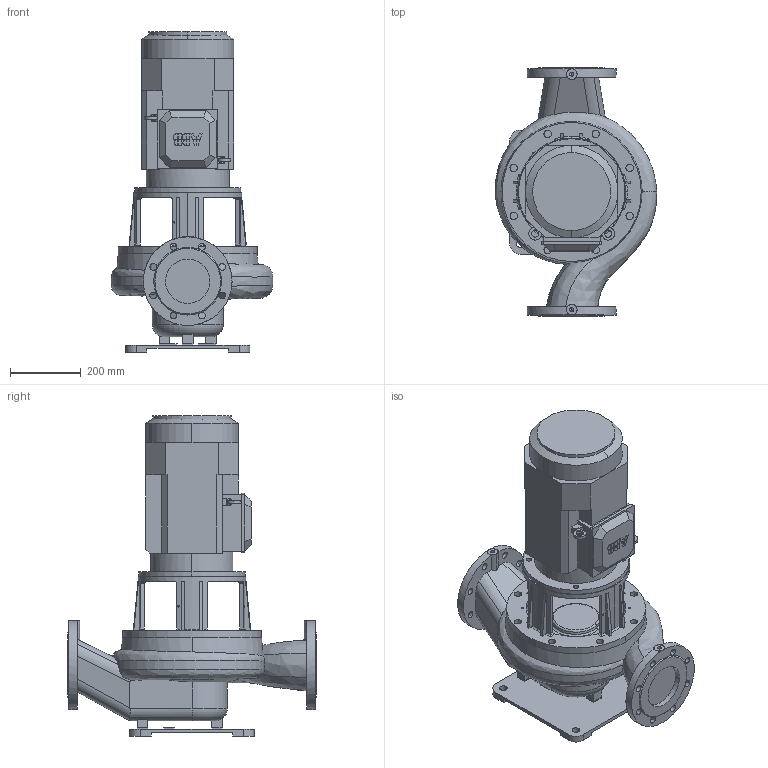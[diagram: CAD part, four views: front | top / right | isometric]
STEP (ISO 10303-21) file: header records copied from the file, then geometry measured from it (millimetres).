
FILE_DESCRIPTION(('STEP AP214'),'1');
FILE_NAME('export.stp','2018-05-29T13:20:18',(' '),(' '),'Spatial InterOp 3D',' ',' ');
FILE_SCHEMA(('AUTOMOTIVE_DESIGN { 1 0 10303 214 1 1 1 1 }'));
Length unit declared in the file: millimetre
Products named in the file (6): W_AL11294SD750; V_TL110611291154; V_PPAL1129; V_JALKA30940; P100906; IEC-132
Assembly tree (5 placements, depth 2):
  W_AL11294SD750
    V_TL110611291154
    V_PPAL1129
    V_JALKA30940
    P100906
    IEC-132
Bounding box: 455.8 x 700 x 903 mm (x, y, z)
Volume: 55160118 mm3; surface area: 2467154.8 mm2
Topology: 5 solids, 5 shells, 599 faces, 1664 edges, 1093 vertices
Faces by surface type: plane 273, cylinder 240, cone 34, torus 29, bspline 23
Entity records: 28681 total; most frequent: CARTESIAN_POINT 6957, ORIENTED_EDGE 3308, DIRECTION 3142, EDGE_CURVE 1654, AXIS2_PLACEMENT_3D 1152, VERTEX_POINT 1093, STYLED_ITEM 983, PRESENTATION_STYLE_ASSIGNMENT 983
